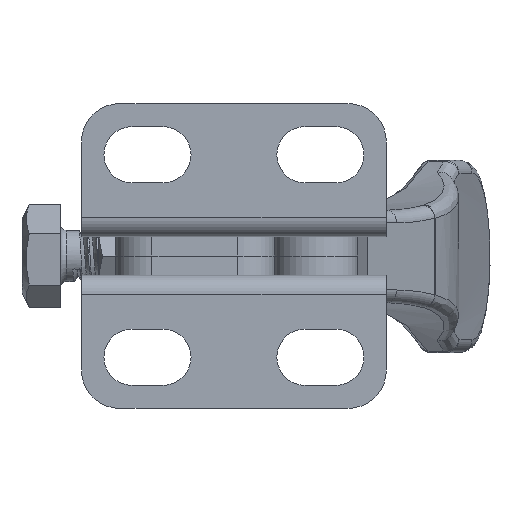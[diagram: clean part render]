
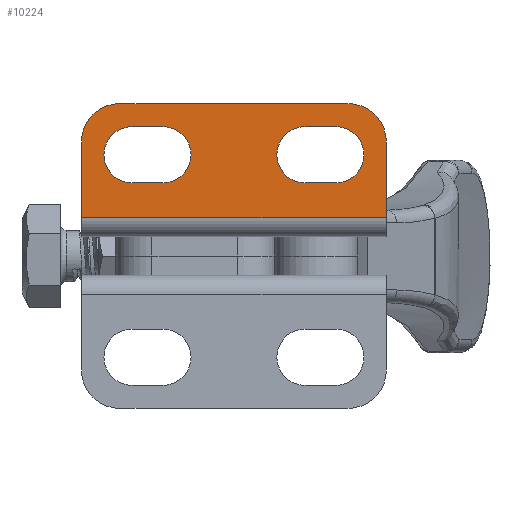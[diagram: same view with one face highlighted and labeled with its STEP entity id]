
A CAD part, front view. The second image highlights one B-rep face of the part: STEP entity #10224.
In plain terms, the highlighted planar face has unit normal (0, -1, 0).
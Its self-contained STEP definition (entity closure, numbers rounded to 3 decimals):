
#817=FACE_BOUND('',#1882,.T.);
#818=FACE_BOUND('',#1883,.T.);
#920=PLANE('',#11147);
#1286=FACE_OUTER_BOUND('',#1881,.T.);
#1881=EDGE_LOOP('',(#7901,#7902,#7903,#7904,#7905,#7906));
#1882=EDGE_LOOP('',(#7907,#7908,#7909,#7910));
#1883=EDGE_LOOP('',(#7911,#7912,#7913,#7914));
#2544=LINE('',#31109,#3364);
#2552=LINE('',#31127,#3372);
#2555=LINE('',#31136,#3375);
#2556=LINE('',#31138,#3376);
#2557=LINE('',#31140,#3377);
#2558=LINE('',#31142,#3378);
#2559=LINE('',#31145,#3379);
#2560=LINE('',#31148,#3380);
#3364=VECTOR('',#12454,1000.);
#3372=VECTOR('',#12476,1000.);
#3375=VECTOR('',#12485,1000.);
#3376=VECTOR('',#12488,1000.);
#3377=VECTOR('',#12489,1000.);
#3378=VECTOR('',#12490,1000.);
#3379=VECTOR('',#12493,1000.);
#3380=VECTOR('',#12496,1000.);
#4089=CIRCLE('',#11115,2.2);
#4091=CIRCLE('',#11118,2.2);
#4109=CIRCLE('',#11148,3.);
#4110=CIRCLE('',#11149,3.);
#4111=CIRCLE('',#11150,2.2);
#4112=CIRCLE('',#11151,2.2);
#4526=VERTEX_POINT('',#30588);
#4527=VERTEX_POINT('',#30589);
#4530=VERTEX_POINT('',#30597);
#4531=VERTEX_POINT('',#30598);
#4604=VERTEX_POINT('',#31106);
#4605=VERTEX_POINT('',#31108);
#4607=VERTEX_POINT('',#31125);
#4608=VERTEX_POINT('',#31126);
#4610=VERTEX_POINT('',#31133);
#4611=VERTEX_POINT('',#31135);
#4612=VERTEX_POINT('',#31139);
#4613=VERTEX_POINT('',#31141);
#4614=VERTEX_POINT('',#31144);
#4615=VERTEX_POINT('',#31146);
#5731=EDGE_CURVE('',#4526,#4527,#4089,.T.);
#5735=EDGE_CURVE('',#4530,#4531,#4091,.T.);
#5812=EDGE_CURVE('',#4604,#4605,#2544,.T.);
#5821=EDGE_CURVE('',#4607,#4608,#2552,.T.);
#5825=EDGE_CURVE('',#4604,#4610,#4109,.T.);
#5826=EDGE_CURVE('',#4611,#4610,#2555,.T.);
#5827=EDGE_CURVE('',#4611,#4607,#4110,.T.);
#5828=EDGE_CURVE('',#4608,#4605,#2556,.T.);
#5829=EDGE_CURVE('',#4612,#4526,#2557,.T.);
#5830=EDGE_CURVE('',#4527,#4613,#2558,.T.);
#5831=EDGE_CURVE('',#4613,#4612,#4111,.T.);
#5832=EDGE_CURVE('',#4531,#4614,#2559,.T.);
#5833=EDGE_CURVE('',#4614,#4615,#4112,.T.);
#5834=EDGE_CURVE('',#4615,#4530,#2560,.T.);
#7901=ORIENTED_EDGE('',*,*,#5812,.F.);
#7902=ORIENTED_EDGE('',*,*,#5825,.T.);
#7903=ORIENTED_EDGE('',*,*,#5826,.F.);
#7904=ORIENTED_EDGE('',*,*,#5827,.T.);
#7905=ORIENTED_EDGE('',*,*,#5821,.T.);
#7906=ORIENTED_EDGE('',*,*,#5828,.T.);
#7907=ORIENTED_EDGE('',*,*,#5829,.T.);
#7908=ORIENTED_EDGE('',*,*,#5731,.T.);
#7909=ORIENTED_EDGE('',*,*,#5830,.T.);
#7910=ORIENTED_EDGE('',*,*,#5831,.T.);
#7911=ORIENTED_EDGE('',*,*,#5832,.T.);
#7912=ORIENTED_EDGE('',*,*,#5833,.T.);
#7913=ORIENTED_EDGE('',*,*,#5834,.T.);
#7914=ORIENTED_EDGE('',*,*,#5735,.T.);
#10224=ADVANCED_FACE('',(#1286,#817,#818),#920,.F.);
#11115=AXIS2_PLACEMENT_3D('',#30590,#12362,#12363);
#11118=AXIS2_PLACEMENT_3D('',#30599,#12370,#12371);
#11147=AXIS2_PLACEMENT_3D('',#31132,#12481,#12482);
#11148=AXIS2_PLACEMENT_3D('',#31134,#12483,#12484);
#11149=AXIS2_PLACEMENT_3D('',#31137,#12486,#12487);
#11150=AXIS2_PLACEMENT_3D('',#31143,#12491,#12492);
#11151=AXIS2_PLACEMENT_3D('',#31147,#12494,#12495);
#12362=DIRECTION('center_axis',(0.,1.,0.));
#12363=DIRECTION('ref_axis',(0.,0.,
1.));
#12370=DIRECTION('center_axis',(0.,1.,0.));
#12371=DIRECTION('ref_axis',(0.,0.,
1.));
#12454=DIRECTION('',(0.,0.,-1.));
#12476=DIRECTION('',(0.,0.,-1.));
#12481=DIRECTION('center_axis',(0.,1.,0.));
#12482=DIRECTION('ref_axis',(-1.,0.,0.));
#12483=DIRECTION('center_axis',(0.,-1.,0.));
#12484=DIRECTION('ref_axis',(-1.,0.,0.));
#12485=DIRECTION('',(1.,0.,0.));
#12486=DIRECTION('center_axis',(0.,-1.,0.));
#12487=DIRECTION('ref_axis',(-1.,0.,0.));
#12488=DIRECTION('',(1.,0.,0.));
#12489=DIRECTION('',(-1.,0.,0.));
#12490=DIRECTION('',(1.,0.,0.));
#12491=DIRECTION('center_axis',(0.,1.,0.));
#12492=DIRECTION('ref_axis',(0.,0.,
-1.));
#12493=DIRECTION('',(1.,0.,0.));
#12494=DIRECTION('center_axis',(0.,1.,0.));
#12495=DIRECTION('ref_axis',(0.,0.,
-1.));
#12496=DIRECTION('',(-1.,0.,0.));
#30588=CARTESIAN_POINT('',(-19.85,0.,4.2));
#30589=CARTESIAN_POINT('',(-19.85,0.,8.6));
#30590=CARTESIAN_POINT('Origin',(-19.85,0.,
6.4));
#30597=CARTESIAN_POINT('',(-6.35,0.,4.2));
#30598=CARTESIAN_POINT('',(-6.35,0.,8.6));
#30599=CARTESIAN_POINT('Origin',(-6.35,0.,
6.4));
#31106=CARTESIAN_POINT('',(0.,0.,7.4));
#31108=CARTESIAN_POINT('',(0.,0.,1.5));
#31109=CARTESIAN_POINT('',(0.,0.,1.5));
#31125=CARTESIAN_POINT('',(-23.8,0.,7.4));
#31126=CARTESIAN_POINT('',(-23.8,0.,1.5));
#31127=CARTESIAN_POINT('',(-23.8,0.,1.5));
#31132=CARTESIAN_POINT('Origin',(0.,0.,1.5));
#31133=CARTESIAN_POINT('',(-3.,0.,10.4));
#31134=CARTESIAN_POINT('Origin',(-3.,0.,7.4));
#31135=CARTESIAN_POINT('',(-20.8,0.,10.4));
#31136=CARTESIAN_POINT('',(-23.8,0.,10.4));
#31137=CARTESIAN_POINT('Origin',(-20.8,0.,
7.4));
#31138=CARTESIAN_POINT('',(0.,0.,1.5));
#31139=CARTESIAN_POINT('',(-17.45,0.,4.2));
#31140=CARTESIAN_POINT('',(0.,0.,4.2));
#31141=CARTESIAN_POINT('',(-17.45,0.,8.6));
#31142=CARTESIAN_POINT('',(0.,0.,8.6));
#31143=CARTESIAN_POINT('Origin',(-17.45,0.,
6.4));
#31144=CARTESIAN_POINT('',(-3.95,0.,8.6));
#31145=CARTESIAN_POINT('',(0.,0.,8.6));
#31146=CARTESIAN_POINT('',(-3.95,0.,4.2));
#31147=CARTESIAN_POINT('Origin',(-3.95,0.,
6.4));
#31148=CARTESIAN_POINT('',(0.,0.,4.2));
